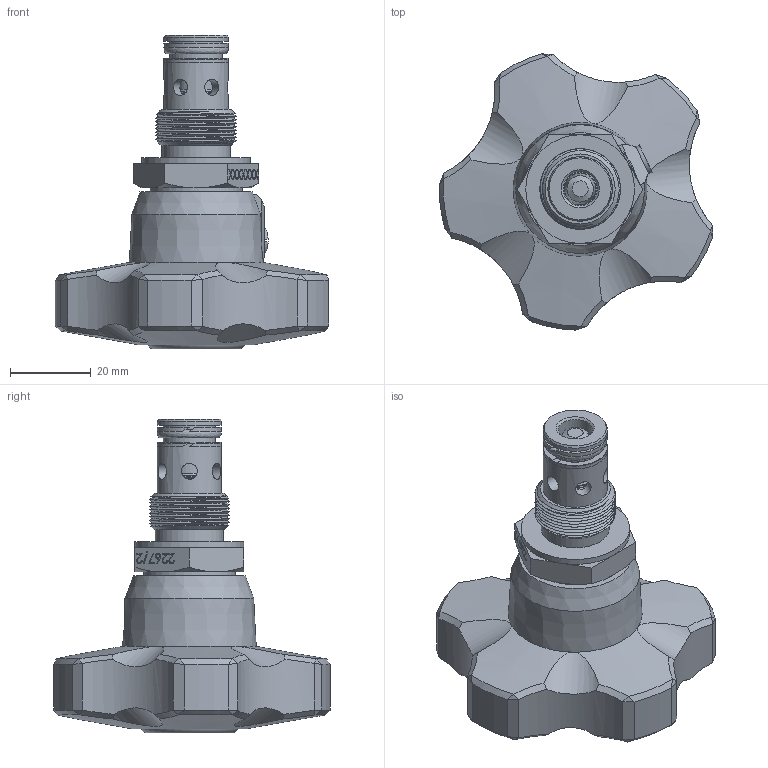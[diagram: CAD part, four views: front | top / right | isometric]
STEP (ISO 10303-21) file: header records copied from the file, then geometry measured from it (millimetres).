
FILE_DESCRIPTION (( 'STEP AP214' ), '1' );
FILE_NAME ('2267-2-38 VOLANTINO ABS.STEP', '2025-10-30T14:43:59', ( '' ), ( '' ), 'SwSTEP 2.0', 'SolidWorks 2025', '' );
FILE_SCHEMA (( 'AUTOMOTIVE_DESIGN' ));
Length unit declared in the file: millimetre
Products named in the file (16): OR 2050; ANELLO DI FERMO 1251-2.003.00-12; OR 108_OR108; VOLANTINO DI MANOVRA 257-1.005.00-38; VITE TESTA BOMBATA 2257-2.006.00-12; ASSIEME VOLANTINO 257-1.005.00-38; BK 108_BK108; INSERTO FILETTATO 257-1.005.03-38; INSERTO ESAGONALE 257-1.005.02-14; ANELLO ANTI ESTRUSIONE 267-2.022.00-38; CAPPUCCIO VOLANTINO 257-2.007.00-14_Tipo14; CORPO CARTUCCIA FILETTATA 2267-2.101.00-38; SPILLO DI REGOLAZIONE 2267-2.002.00-38; 2267-2-38 VOLANTINO ABS; GRANO DI BLOCCAGGIO M5X8_Tipo18; DISCO FASCETTA 257-1.004.00-38
Assembly tree (16 placements, depth 3):
  2267-2-38 VOLANTINO ABS
    CORPO CARTUCCIA FILETTATA 2267-2.101.00-38
    SPILLO DI REGOLAZIONE 2267-2.002.00-38
    BK 108_BK108
    OR 108_OR108
    GRANO DI BLOCCAGGIO M5X8_Tipo18
    OR 2050
    ANELLO ANTI ESTRUSIONE 267-2.022.00-38  x2
    DISCO FASCETTA 257-1.004.00-38
    VITE TESTA BOMBATA 2257-2.006.00-12
    ANELLO DI FERMO 1251-2.003.00-12
    ASSIEME VOLANTINO 257-1.005.00-38
      INSERTO FILETTATO 257-1.005.03-38
      VOLANTINO DI MANOVRA 257-1.005.00-38
      INSERTO ESAGONALE 257-1.005.02-14
    CAPPUCCIO VOLANTINO 257-2.007.00-14_Tipo14
Bounding box: 67.9 x 68.64 x 78 mm (x, y, z)
Volume: 74810.3 mm3; surface area: 30804.7 mm2
Topology: 15 solids, 15 shells, 1144 faces, 2827 edges, 1774 vertices
Faces by surface type: plane 587, cone 270, cylinder 175, bspline 98, torus 13, sphere 1
Full cylindrical faces by diameter (mm): 2.5 x1, 3.3 x1, 4 x7, 4.2 x1, 5.8 x1, 6.4 x1, 8 x2, 8.5 x2, 8.9 x1, 9.4 x2, 9.5 x2, 10 x2, 10.5 x1, 11.5 x1, 12 x3, 12.7 x1, 13 x1, 13.6 x1, 16 x2, 17 x1, 17.5 x1, 18 x1, 18.5 x1, 22.3 x1, 22.4 x2, 22.9 x1, 23.5 x1, 26 x1, 27 x1
Entity records: 44004 total; most frequent: CARTESIAN_POINT 18580, ORIENTED_EDGE 5002, DIRECTION 4829, EDGE_CURVE 2501, VERTEX_POINT 1725, AXIS2_PLACEMENT_3D 1687, EDGE_LOOP 1492, VECTOR 1455
